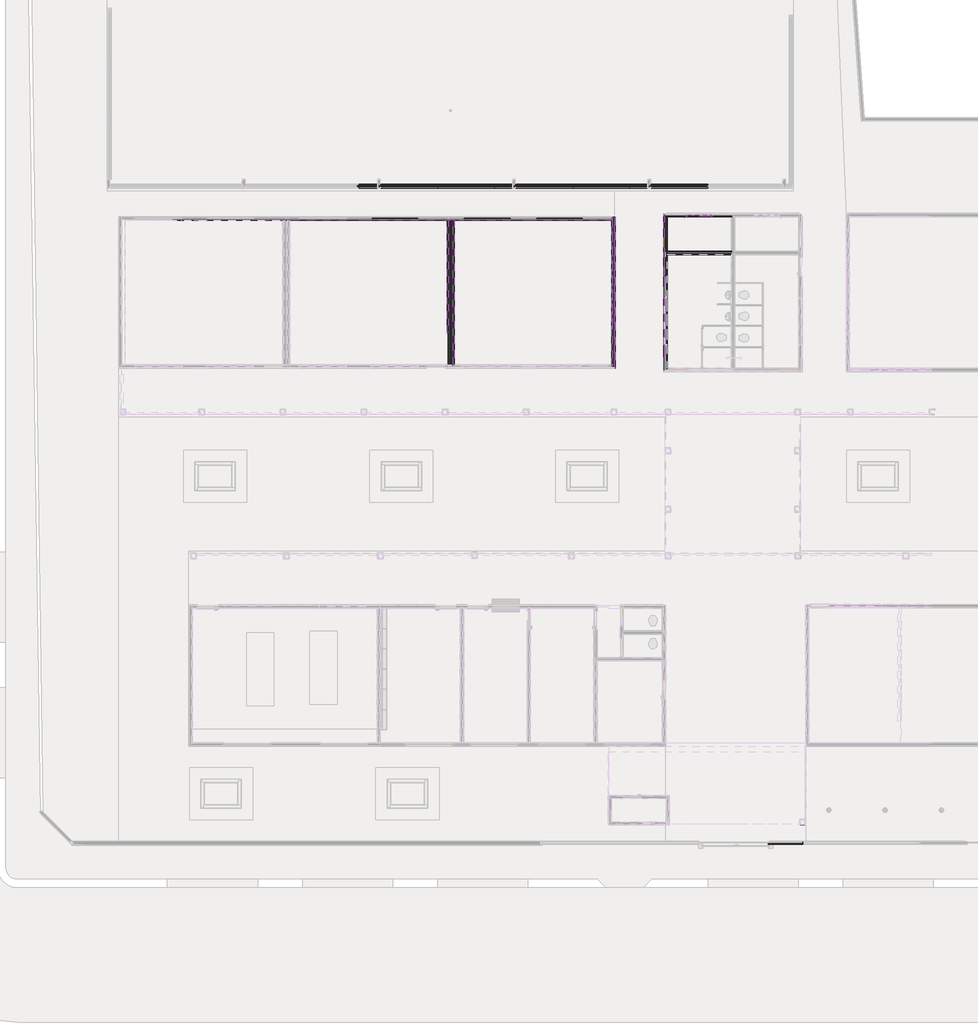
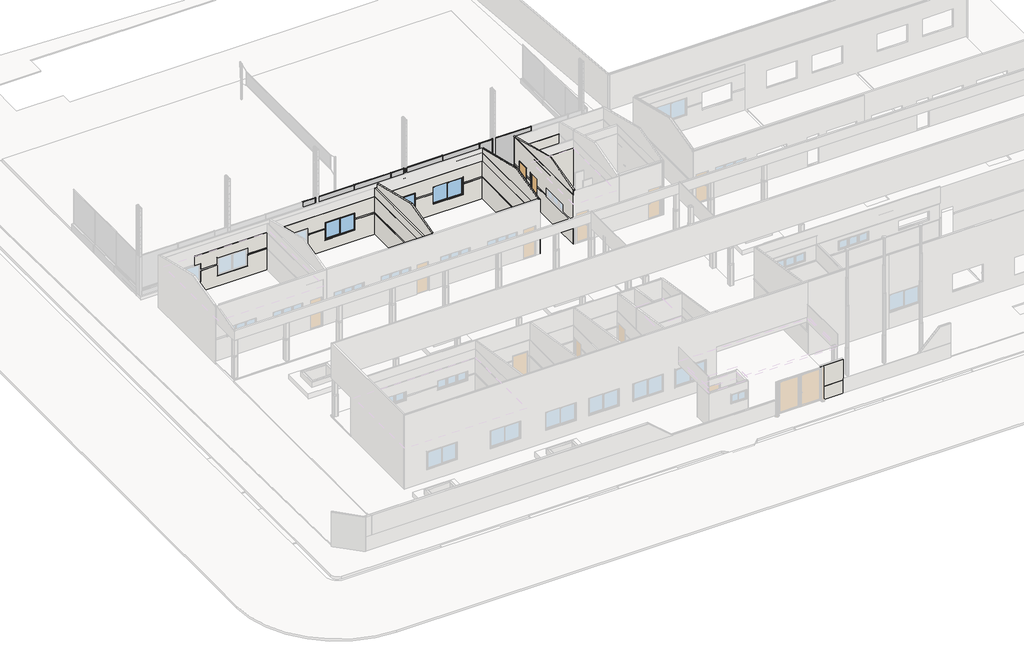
# One storey, part 10 of 28: 39 walls, 8 plates, 4 doors, 4 windows.
"""IFC4 building model written with IfcOpenShell, lengths in millimetres."""

from ifc_helpers import new_model, si_unit, frame, origin, origin_with_axes, place, context, project, spatial, polyline, outline, extrude, faceted_brep, transform, mapped, element, save
from components import door_0fbeb080, pm71_l82cm_dcb64f62, plate_c8864c2c, plate_0e4e2798, window_1x60_2e2a47e2, window_2x1_20x1x10_9e9748dd

model = new_model("IFC4")

# Units and contexts
model_context = context("Model", 3, world=origin())
ifc_project = project(units=[si_unit("LENGTHUNIT", "METRE", prefix="MILLI")], contexts=[model_context])

# Site, building, storey
site = spatial("IfcSite", under=ifc_project)
building = spatial("IfcBuilding", under=site)
storey = spatial("IfcBuildingStorey", under=building, Name="Térreo", Elevation=0.0)

# Doors
placement = place(None, origin())
door_shape = door_0fbeb080(model_context)
element("IfcDoor", 1, ObjectType="FDE_RP02_Reforço : FDE_RP02_Reforço", at=placement, inside=storey, context=model_context, shape_type="MappedRepresentation", body=[
    mapped(door_shape, transform((-34005.0, 27327.0, 1265.0), x_axis=(0.0, -1.0, 0.0), y_axis=(1.0, 0.0, 0.0), z_axis=(0.0, 0.0, 1.0))),
])
element("IfcDoor", 2, ObjectType="FDE_RP02_Reforço : FDE_RP02_Reforço", at=placement, inside=storey, context=model_context, shape_type="MappedRepresentation", body=[
    mapped(door_shape, transform((-33945.0, 25324.0, 1265.0), x_axis=(0.0, 1.0, 0.0), y_axis=(-1.0, 0.0, 0.0), z_axis=(0.0, 0.0, 1.0))),
])
pm71_l82cm_shape = pm71_l82cm_dcb64f62(model_context)
element("IfcDoor", 3, ObjectType="FDE_PM70_PM71_PM72_PortadeMadeiraSarrafeada_BatenteMetálico : PM71_L82cm", at=placement, inside=storey, context=model_context, shape_type="MappedRepresentation", body=[
    mapped(pm71_l82cm_shape, transform((-33975.0, 26972.0, 215.0), x_axis=(0.0, -1.0, 0.0), y_axis=(1.0, 0.0, 0.0), z_axis=(0.0, 0.0, 1.0))),
])
element("IfcDoor", 4, ObjectType="FDE_PM70_PM71_PM72_PortadeMadeiraSarrafeada_BatenteMetálico : PM71_L82cm", at=placement, inside=storey, context=model_context, shape_type="MappedRepresentation", body=[
    mapped(pm71_l82cm_shape, transform((-33975.0, 25679.0, 215.0), x_axis=(0.0, 1.0, 0.0), y_axis=(-1.0, 0.0, 0.0), z_axis=(0.0, 0.0, 1.0))),
])

# Plates
plate_shape = plate_c8864c2c(model_context)
element("IfcPlate", 5, ObjectType="FDE_FQ01_FechamentoParaQuadradeEsportes : FQ01_LateraisSapata", at=placement, inside=storey, context=model_context, shape_type="MappedRepresentation", body=[
    mapped(plate_shape, transform((-45414.9999998, 29253.7010511, -350.0), x_axis=(1.0, 0.0, 0.0), y_axis=(0.0, 1.0, 0.0), z_axis=(0.0, 0.0, 1.0))),
])
element("IfcPlate", 6, ObjectType="FDE_FQ01_FechamentoParaQuadradeEsportes : FQ01_LateraisSapata", at=placement, inside=storey, context=model_context, shape_type="MappedRepresentation", body=[
    mapped(plate_shape, transform((-42914.9999997, 29253.7010511, -350.0), x_axis=(1.0, 0.0, 0.0), y_axis=(0.0, 1.0, 0.0), z_axis=(0.0, 0.0, 1.0))),
])
element("IfcPlate", 7, ObjectType="FDE_FQ01_FechamentoParaQuadradeEsportes : FQ01_LateraisSapata", at=placement, inside=storey, context=model_context, shape_type="MappedRepresentation", body=[
    mapped(plate_shape, transform((-39414.9999998, 29253.7010511, -350.0), x_axis=(1.0, 0.0, 0.0), y_axis=(0.0, 1.0, 0.0), z_axis=(0.0, 0.0, 1.0))),
])
element("IfcPlate", 8, ObjectType="FDE_FQ01_FechamentoParaQuadradeEsportes : FQ01_LateraisSapata", at=placement, inside=storey, context=model_context, shape_type="MappedRepresentation", body=[
    mapped(plate_shape, transform((-36914.9999997, 29253.7010511, -350.0), x_axis=(1.0, 0.0, 0.0), y_axis=(0.0, 1.0, 0.0), z_axis=(0.0, 0.0, 1.0))),
])
element("IfcPlate", 9, ObjectType="FDE_FQ01_FechamentoParaQuadradeEsportes : FQ01_LateraisSapata", at=placement, inside=storey, context=model_context, shape_type="MappedRepresentation", body=[
    mapped(plate_shape, transform((-33414.9999998, 29253.7010511, -350.0), x_axis=(1.0, 0.0, 0.0), y_axis=(0.0, 1.0, 0.0), z_axis=(0.0, 0.0, 1.0))),
])
plate_2_shape = plate_0e4e2798(model_context)
element("IfcPlate", 10, ObjectType="FDE_FQ01_FechamentoParaQuadradeEsportes : FQ01_LateraisSapata", at=placement, inside=storey, context=model_context, shape_type="MappedRepresentation", body=[
    mapped(plate_2_shape, transform((-47224.9999998, 29253.7010511, -350.0), x_axis=(1.0, 0.0, 0.0), y_axis=(0.0, 1.0, 0.0), z_axis=(0.0, 0.0, 1.0))),
])
element("IfcPlate", 11, ObjectType="FDE_FQ01_FechamentoParaQuadradeEsportes : FQ01_LateraisSapata", at=placement, inside=storey, context=model_context, shape_type="MappedRepresentation", body=[
    mapped(plate_2_shape, transform((-41224.9999998, 29253.7010511, -350.0), x_axis=(1.0, 0.0, 0.0), y_axis=(0.0, 1.0, 0.0), z_axis=(0.0, 0.0, 1.0))),
])
element("IfcPlate", 12, ObjectType="FDE_FQ01_FechamentoParaQuadradeEsportes : FQ01_LateraisSapata", at=placement, inside=storey, context=model_context, shape_type="MappedRepresentation", body=[
    mapped(plate_2_shape, transform((-35224.9999998, 29253.7010511, -350.0), x_axis=(1.0, 0.0, 0.0), y_axis=(0.0, 1.0, 0.0), z_axis=(0.0, 0.0, 1.0))),
])

# Walls
element("IfcWall", 13, ObjectType="FDE_S712_AlvenariadeTijoloCerâmico/Baiano_Alvenaria_9cm - Existente", at=placement, inside=storey, context=model_context, shape_type="Brep", body=[
    faceted_brep([(-43620.0, 27870.0, 0.0), (-43620.0, 27780.0, 0.0), (-43620.0, 21300.0, 0.0), (-43620.0, 21210.0, 0.0), (-43620.0, 21210.0, 3500.0), (-43620.0, 21300.0, 3500.0), (-43620.0, 27780.0, 3500.0), (-43620.0, 27870.0, 3500.0), (-43530.0, 27870.0, 0.0), (-43530.0, 27870.0, 3500.0), (-43530.0, 27780.0, 3500.0), (-43530.0, 21300.0, 3500.0), (-43530.0, 21210.0, 3500.0), (-43530.0, 21210.0, 0.0), (-43530.0, 21300.0, 0.0), (-43530.0, 27780.0, 0.0)], [[[0, 1, 2, 3, 4, 5, 6, 7]], [[8, 9, 10, 11, 12, 13, 14, 15]], [[3, 2, 1, 0, 8, 15, 14, 13]], [[7, 6, 5, 4, 12, 11, 10, 9]], [[4, 3, 13, 12]], [[0, 7, 9, 8]]]),
])
element("IfcWall", 14, ObjectType="FDE_S712_AlvenariadeTijoloCerâmico/Baiano_Alvenaria_9cm - Existente", at=placement, inside=storey, context=model_context, shape_type="Brep", body=[
    faceted_brep([(-36320.0, 27870.0, 0.0), (-36320.0, 27780.0, 0.0), (-36320.0, 21300.0, 0.0), (-36320.0, 21210.0, 0.0), (-36320.0, 21210.0, 3500.0), (-36320.0, 21300.0, 3500.0), (-36320.0, 27780.0, 3500.0), (-36320.0, 27870.0, 3500.0), (-36230.0, 27870.0, 0.0), (-36230.0, 27870.0, 3500.0), (-36230.0, 21210.0, 3500.0), (-36230.0, 21210.0, 0.0)], [[[0, 1, 2, 3, 4, 5, 6, 7]], [[8, 9, 10, 11]], [[3, 2, 1, 0, 8, 11]], [[7, 6, 5, 4, 10, 9]], [[0, 7, 9, 8]], [[3, 11, 10, 4]]]),
])
element("IfcWall", 15, ObjectType="FDE_S712_AlvenariadeTijoloCerâmico/Baiano_Alvenaria_9cm - Existente", at=placement, inside=storey, context=model_context, shape_type="Brep", body=[
    faceted_brep([(-43530.0, 27780.0, 0.0), (-36320.0, 27780.0, 0.0), (-36320.0, 27780.0, 3500.0), (-43530.0, 27780.0, 3500.0), (-39715.0, 27780.0, 965.0), (-39715.0, 27780.0, 1824.9435125), (-39715.0, 27780.0, 2235.0), (-37645.0, 27780.0, 2235.0), (-37645.0, 27780.0, 1824.9435125), (-37645.0, 27780.0, 965.0), (-42915.0, 27780.0, 965.0), (-42915.0, 27780.0, 1824.9435125), (-42915.0, 27780.0, 2235.0), (-40845.0, 27780.0, 2235.0), (-40845.0, 27780.0, 1824.9435125), (-40845.0, 27780.0, 965.0), (-36320.0, 27870.0, 0.0), (-43530.0, 27870.0, 0.0), (-43530.0, 27870.0, 3500.0), (-36320.0, 27870.0, 3500.0), (-39715.0, 27870.0, 2235.0), (-39715.0, 27870.0, 965.0), (-37645.0, 27870.0, 965.0), (-37645.0, 27870.0, 2235.0), (-42915.0, 27870.0, 2235.0), (-42915.0, 27870.0, 965.0), (-40845.0, 27870.0, 965.0), (-40845.0, 27870.0, 2235.0)], [[[0, 1, 2, 3], [4, 5, 6, 7, 8, 9], [10, 11, 12, 13, 14, 15]], [[16, 17, 18, 19], [20, 21, 22, 23], [24, 25, 26, 27]], [[1, 0, 17, 16]], [[3, 2, 19, 18]], [[2, 1, 16, 19]], [[3, 18, 17, 0]], [[4, 21, 20, 6, 5]], [[6, 20, 23, 7]], [[7, 23, 22, 9, 8]], [[21, 4, 9, 22]], [[10, 25, 24, 12, 11]], [[12, 24, 27, 13]], [[13, 27, 26, 15, 14]], [[25, 10, 15, 26]]]),
])
element("IfcWall", 16, ObjectType="FDE_S712_AlvenariadeTijoloCerâmico/Baiano_Alvenaria_9cm - Existente", at=placement, inside=storey, context=model_context, shape_type="Brep", body=[
    faceted_brep([(-33930.0, 21150.0, 0.0), (-33930.0, 27930.0, 0.0), (-33930.0, 27930.0, 200.0), (-33930.0, 27930.0, 2900.0), (-33930.0, 27930.0, 3729.5080277), (-33930.0, 23811.6315073, 4759.1001508), (-33930.0, 21060.0, 4071.192274), (-33930.0, 21060.0, 1731.0528047), (-33930.0, 21030.0, 1731.0528047), (-33930.0, 21030.0, 131.0), (-33930.0, 21150.0, 131.0), (-33930.0, 26555.0, 215.0), (-33930.0, 26555.0, 2327.0), (-33930.0, 27389.0, 2327.0), (-33930.0, 27389.0, 215.0), (-33930.0, 26096.0, 2327.0), (-33930.0, 26096.0, 215.0), (-33930.0, 25262.0, 215.0), (-33930.0, 25262.0, 2327.0), (-33930.0, 22215.0, 1665.0), (-33930.0, 22215.0, 2335.0), (-33930.0, 24285.0, 2335.0), (-33930.0, 24285.0, 1665.0), (-34020.0, 27930.0, 0.0), (-34020.0, 21150.0, 0.0), (-34020.0, 21150.0, 131.0), (-34020.0, 21030.0, 131.0), (-34020.0, 21030.0, 1731.0528047), (-34020.0, 21060.0, 1731.0528047), (-34020.0, 21060.0, 1824.9435125), (-34020.0, 21060.0, 3741.7030272), (-34020.0, 21060.0, 4013.8205229), (-34020.0, 21060.0, 4071.192274), (-34020.0, 23811.6315073, 4759.1001508), (-34020.0, 27930.0, 3729.5080277), (-34020.0, 27930.0, 3693.3295728), (-34020.0, 27930.0, 1824.9435125), (-34020.0, 27930.0, 1731.0528047), (-34020.0, 26096.0, 215.0), (-34020.0, 26096.0, 1731.0528047), (-34020.0, 26096.0, 1824.9435125), (-34020.0, 26096.0, 2327.0), (-34020.0, 25262.0, 2327.0), (-34020.0, 25262.0, 1824.9435125), (-34020.0, 25262.0, 1731.0528047), (-34020.0, 25262.0, 215.0), (-34020.0, 26555.0, 2327.0), (-34020.0, 26555.0, 1824.9435125), (-34020.0, 26555.0, 1731.0528047), (-34020.0, 26555.0, 215.0), (-34020.0, 27389.0, 215.0), (-34020.0, 27389.0, 1731.0528047), (-34020.0, 27389.0, 1824.9435125), (-34020.0, 27389.0, 2327.0), (-34020.0, 22215.0, 2335.0), (-34020.0, 22215.0, 1824.9435125), (-34020.0, 22215.0, 1731.0528047), (-34020.0, 22215.0, 1665.0), (-34020.0, 24285.0, 1665.0), (-34020.0, 24285.0, 1731.0528047), (-34020.0, 24285.0, 1824.9435125), (-34020.0, 24285.0, 2335.0)], [[[0, 1, 2, 3, 4, 5, 6, 7, 8, 9, 10], [11, 12, 13, 14], [15, 16, 17, 18], [19, 20, 21, 22]], [[23, 24, 25, 26, 27, 28, 29, 30, 31, 32, 33, 34, 35, 36, 37], [38, 39, 40, 41, 42, 43, 44, 45], [46, 47, 48, 49, 50, 51, 52, 53], [54, 55, 56, 57, 58, 59, 60, 61]], [[1, 0, 24, 23]], [[11, 49, 48, 47, 46, 12]], [[12, 46, 53, 13]], [[50, 14, 13, 53, 52, 51]], [[49, 11, 14, 50]], [[38, 16, 15, 41, 40, 39]], [[41, 15, 18, 42]], [[42, 18, 17, 45, 44, 43]], [[16, 38, 45, 17]], [[32, 6, 5, 33]], [[4, 34, 33, 5]], [[19, 57, 56, 55, 54, 20]], [[20, 54, 61, 21]], [[21, 61, 60, 59, 58, 22]], [[57, 19, 22, 58]], [[26, 25, 10, 9]], [[24, 0, 10, 25]], [[1, 23, 37, 36, 35, 34, 4, 3, 2]], [[28, 27, 8, 7]], [[26, 9, 8, 27]], [[6, 32, 31, 30, 29, 28, 7]]]),
])
element("IfcWall", 17, ObjectType="FDE_S712_AlvenariadeTijoloCerâmico/Baiano_Alvenaria_9cm - Existente", at=placement, inside=storey, context=model_context, shape_type="Brep", body=[
    faceted_brep([(-36320.0, 27780.0, 0.0), (-36320.0, 27749.9999994, 0.0), (-36320.0, 21300.0, 0.0), (-36320.0, 21300.0, 1731.0528047), (-36320.0, 21300.0, 4131.192274), (-36320.0, 23811.6315073, 4759.1001508), (-36320.0, 27780.0, 3767.0080277), (-36320.0, 27780.0, 1731.0528047), (-36230.0, 27780.0, 0.0), (-36230.0, 27780.0, 3767.0080277), (-36230.0, 23811.6315073, 4759.1001508), (-36230.0, 21300.0, 4131.192274), (-36230.0, 21300.0, 0.0)], [[[0, 1, 2, 3, 4, 5, 6, 7]], [[8, 9, 10, 11, 12]], [[2, 1, 0, 8, 12]], [[0, 7, 6, 9, 8]], [[6, 5, 10, 9]], [[5, 4, 11, 10]], [[2, 12, 11, 4, 3]]]),
])
element("IfcWall", 18, ObjectType="FDE_S712_AlvenariadeTijoloCerâmico/Baiano_Alvenaria_9cm - Existente", at=placement, inside=storey, context=model_context, shape_type="Brep", body=[
    faceted_brep([(-43380.0, 21300.0, 4131.192274), (-43380.0, 21300.0, 1731.0528047), (-43380.0, 21300.0, 0.0), (-43380.0, 21330.0, 0.0), (-43380.0, 27749.9999994, 0.0), (-43380.0, 27779.9999994, 0.0), (-43380.0, 27779.9999994, 1731.0528047), (-43380.0, 27779.9999994, 1824.9435125), (-43380.0, 27779.9999994, 2900.0), (-43380.0, 27779.9999994, 3767.0080278), (-43380.0, 23811.6315073, 4759.1001508), (-43470.0, 21300.0, 0.0), (-43470.0, 21300.0, 4131.192274), (-43470.0, 23811.6315073, 4759.1001508), (-43470.0, 27779.9999994, 3767.0080278), (-43470.0, 27779.9999994, 1731.0528047), (-43470.0, 27779.9999994, 0.0), (-43470.0, 27749.9999994, 0.0)], [[[0, 1, 2, 3, 4, 5, 6, 7, 8, 9, 10]], [[11, 12, 13, 14, 15, 16, 17]], [[5, 4, 3, 2, 11, 17, 16]], [[0, 10, 13, 12]], [[10, 9, 14, 13]], [[5, 16, 15, 14, 9, 8, 7, 6]], [[0, 12, 11, 2, 1]]]),
])
element("IfcWall", 19, ObjectType="Muro Edificação", at=placement, inside=storey, context=model_context, shape_type="SweptSolid", body=[
    extrude(outline(polyline([(-27865.8320115, 32.3551074), (-29365.8320115, 32.3551074), (-29365.8320115, 182.3551074), (-27865.8320115, 182.3551074), (-27865.8320115, 32.3551074)])), origin_with_axes(), (0.0, 0.0, 1.0), 1050.0),
])
element("IfcWall", 20, ObjectType="Revestimento Cerâmico 10x10cm", at=placement, inside=storey, context=model_context, shape_type="Brep", body=[
    faceted_brep([(-29396.7045635, 32.3387091, 0.0), (-27865.8320115, 32.3387091, 0.0), (-27865.8320115, 32.3387091, 2514.4715065), (-29396.7045635, 32.3387091, 2514.4715065), (-29396.7045635, 62.3387091, 0.0), (-29396.7045635, 62.3387091, 2514.4715065), (-27865.8320115, 62.3387091, 2514.4715065), (-27865.8320115, 62.3387091, 1156.7860555), (-27865.8320115, 62.3387091, 0.0)], [[[0, 1, 2, 3]], [[4, 5, 6, 7, 8]], [[1, 0, 4, 8]], [[2, 1, 8, 7, 6]], [[3, 2, 6, 5]], [[0, 3, 5, 4]]]),
])
element("IfcWall", 21, ObjectType="Revestimento Cerâmico 10x10cm", at=placement, inside=storey, context=model_context, shape_type="Brep", body=[
    faceted_brep([(-34050.0, 27930.0, 0.0), (-34050.0, 21150.0, 0.0), (-34050.0, 21150.0, 131.0), (-34050.0, 21030.0, 131.0), (-34050.0, 21030.0, 1731.0528047), (-34050.0, 22215.0, 1731.0528047), (-34050.0, 22215.0, 1665.0), (-34050.0, 24285.0, 1665.0), (-34050.0, 24285.0, 1731.0528047), (-34050.0, 25262.0, 1731.0528047), (-34050.0, 25262.0, 215.0), (-34050.0, 26096.0, 215.0), (-34050.0, 26096.0, 1731.0528047), (-34050.0, 26555.0, 1731.0528047), (-34050.0, 26555.0, 215.0), (-34050.0, 27389.0, 215.0), (-34050.0, 27389.0, 1731.0528047), (-34050.0, 27930.0, 1731.0528047), (-34020.0, 21150.0, 0.0), (-34020.0, 27930.0, 0.0), (-34020.0, 27930.0, 1731.0528047), (-34020.0, 27389.0, 1731.0528047), (-34020.0, 27389.0, 215.0), (-34020.0, 26555.0, 215.0), (-34020.0, 26555.0, 1731.0528047), (-34020.0, 26096.0, 1731.0528047), (-34020.0, 26096.0, 215.0), (-34020.0, 25262.0, 215.0), (-34020.0, 25262.0, 1731.0528047), (-34020.0, 24285.0, 1731.0528047), (-34020.0, 24285.0, 1665.0), (-34020.0, 22215.0, 1665.0), (-34020.0, 22215.0, 1731.0528047), (-34020.0, 21060.0, 1731.0528047), (-34020.0, 21030.0, 1731.0528047), (-34020.0, 21030.0, 131.0), (-34020.0, 21150.0, 131.0)], [[[0, 1, 2, 3, 4, 5, 6, 7, 8, 9, 10, 11, 12, 13, 14, 15, 16, 17]], [[18, 19, 20, 21, 22, 23, 24, 25, 26, 27, 28, 29, 30, 31, 32, 33, 34, 35, 36]], [[1, 0, 19, 18]], [[5, 4, 34, 33, 32]], [[8, 29, 28, 9]], [[17, 16, 21, 20]], [[24, 13, 12, 25]], [[31, 6, 5, 32]], [[7, 30, 29, 8]], [[6, 31, 30, 7]], [[23, 14, 13, 24]], [[15, 22, 21, 16]], [[14, 23, 22, 15]], [[11, 26, 25, 12]], [[27, 10, 9, 28]], [[26, 11, 10, 27]], [[19, 0, 17, 20]], [[3, 2, 36, 35]], [[1, 18, 36, 2]], [[34, 4, 3, 35]]]),
])
element("IfcWall", 22, ObjectType="Faixa - Revestimento Cerâmico Verde Folha 10x10cm", at=placement, inside=storey, context=model_context, shape_type="Brep", body=[
    faceted_brep([(-34050.0, 27930.0, 1731.0528047), (-34050.0, 27389.0, 1731.0528047), (-34050.0, 27389.0, 1824.9435125), (-34050.0, 27930.0, 1824.9435125), (-34020.0, 27389.0, 1731.0528047), (-34020.0, 27930.0, 1731.0528047), (-34020.0, 27930.0, 1824.9435125), (-34020.0, 27389.0, 1824.9435125), (-34041.0, 27930.0, 1824.9435125)], [[[0, 1, 2, 3]], [[4, 5, 6, 7]], [[1, 0, 5, 4]], [[3, 2, 7, 6, 8]], [[2, 1, 4, 7]], [[0, 3, 8, 6, 5]]]),
    faceted_brep([(-34050.0, 26555.0, 1824.9435125), (-34050.0, 26555.0, 1731.0528047), (-34050.0, 26096.0, 1731.0528047), (-34050.0, 26096.0, 1824.9435125), (-34020.0, 26555.0, 1731.0528047), (-34020.0, 26555.0, 1824.9435125), (-34020.0, 26096.0, 1824.9435125), (-34020.0, 26096.0, 1731.0528047)], [[[0, 1, 2, 3]], [[4, 5, 6, 7]], [[1, 4, 7, 2]], [[5, 0, 3, 6]], [[1, 0, 5, 4]], [[3, 2, 7, 6]]]),
    faceted_brep([(-34050.0, 25262.0, 1824.9435125), (-34050.0, 25262.0, 1731.0528047), (-34050.0, 24285.0, 1731.0528047), (-34050.0, 24285.0, 1824.9435125), (-34020.0, 25262.0, 1731.0528047), (-34020.0, 25262.0, 1824.9435125), (-34020.0, 24285.0, 1824.9435125), (-34020.0, 24285.0, 1731.0528047)], [[[0, 1, 2, 3]], [[4, 5, 6, 7]], [[1, 4, 7, 2]], [[5, 0, 3, 6]], [[1, 0, 5, 4]], [[3, 2, 7, 6]]]),
])
element("IfcWall", 23, ObjectType="Pardes Externas_Pintura Acrílica Branco Neve", at=placement, inside=storey, context=model_context, shape_type="Brep", body=[
    faceted_brep([(-34041.0, 21060.0, 3741.7030272), (-34041.0, 28035.0, 3741.7030272), (-34041.0, 28035.0, 3729.5080277), (-34041.0, 28020.0, 3729.5080277), (-34041.0, 28020.0, 3693.3295728), (-34041.0, 27930.0, 3693.3295728), (-34041.0, 27930.0, 1824.9435125), (-34041.0, 27389.0, 1824.9435125), (-34041.0, 27389.0, 2327.0), (-34041.0, 26555.0, 2327.0), (-34041.0, 26555.0, 1824.9435125), (-34041.0, 26096.0, 1824.9435125), (-34041.0, 26096.0, 2327.0), (-34041.0, 25262.0, 2327.0), (-34041.0, 25262.0, 1824.9435125), (-34041.0, 24285.0, 1824.9435125), (-34041.0, 24285.0, 2335.0), (-34041.0, 22215.0, 2335.0), (-34041.0, 22215.0, 1824.9435125), (-34041.0, 21060.0, 1824.9435125), (-34020.0, 28035.0, 3741.7030272), (-34020.0, 21060.0, 3741.7030272), (-34020.0, 21060.0, 3500.0), (-34020.0, 21060.0, 1824.9435125), (-34020.0, 22215.0, 1824.9435125), (-34020.0, 22215.0, 2335.0), (-34020.0, 24285.0, 2335.0), (-34020.0, 24285.0, 1824.9435125), (-34020.0, 25262.0, 1824.9435125), (-34020.0, 25262.0, 2327.0), (-34020.0, 26096.0, 2327.0), (-34020.0, 26096.0, 1824.9435125), (-34020.0, 26555.0, 1824.9435125), (-34020.0, 26555.0, 2327.0), (-34020.0, 27389.0, 2327.0), (-34020.0, 27389.0, 1824.9435125), (-34020.0, 27930.0, 1824.9435125), (-34020.0, 27930.0, 3693.3295728), (-34020.0, 28020.0, 3693.3295728), (-34020.0, 28020.0, 3707.0080277), (-34020.0, 28020.0, 3729.5080277), (-34020.0, 28035.0, 3729.5080277)], [[[0, 1, 2, 3, 4, 5, 6, 7, 8, 9, 10, 11, 12, 13, 14, 15, 16, 17, 18, 19]], [[20, 21, 22, 23, 24, 25, 26, 27, 28, 29, 30, 31, 32, 33, 34, 35, 36, 37, 38, 39, 40, 41]], [[7, 6, 36, 35]], [[10, 32, 31, 11]], [[14, 28, 27, 15]], [[23, 19, 18, 24]], [[1, 0, 21, 20]], [[9, 33, 32, 10]], [[33, 9, 8, 34]], [[34, 8, 7, 35]], [[30, 12, 11, 31]], [[12, 30, 29, 13]], [[13, 29, 28, 14]], [[17, 25, 24, 18]], [[25, 17, 16, 26]], [[26, 16, 15, 27]], [[19, 23, 22, 21, 0]], [[38, 37, 5, 4]], [[1, 20, 41, 2]], [[2, 41, 40, 3]], [[6, 5, 37, 36]], [[4, 3, 40, 39, 38]]]),
])
element("IfcWall", 24, ObjectType="Revestimento Cerâmico 10x10cm", at=placement, inside=storey, context=model_context, shape_type="Brep", body=[
    faceted_brep([(-43380.0, 27749.9999994, 0.0), (-36350.0, 27749.9999994, 0.0), (-36320.0, 27749.9999994, 0.0), (-36320.0, 27749.9999994, 1731.0528047), (-36350.0, 27749.9999994, 1731.0528047), (-37645.0, 27749.9999994, 1731.0528047), (-37645.0, 27749.9999994, 965.0), (-39715.0, 27749.9999994, 965.0), (-39715.0, 27749.9999994, 1731.0528047), (-40845.0, 27749.9999994, 1731.0528047), (-40845.0, 27749.9999994, 965.0), (-42915.0, 27749.9999994, 965.0), (-42915.0, 27749.9999994, 1731.0528047), (-43350.0, 27749.9999994, 1731.0528047), (-43380.0, 27749.9999994, 1731.0528047), (-43380.0, 27749.9999994, 220.0), (-36320.0, 27779.9999994, 0.0), (-43380.0, 27779.9999994, 0.0), (-43380.0, 27779.9999994, 1731.0528047), (-43350.0, 27779.9999994, 1731.0528047), (-42915.0, 27779.9999994, 1731.0528047), (-42915.0, 27779.9999994, 965.0), (-40845.0, 27779.9999994, 965.0), (-40845.0, 27779.9999994, 1731.0528047), (-39715.0, 27779.9999994, 1731.0528047), (-39715.0, 27779.9999994, 965.0), (-37645.0, 27779.9999994, 965.0), (-37645.0, 27779.9999994, 1731.0528047), (-36320.0, 27779.9999994, 1731.0528047)], [[[0, 1, 2, 3, 4, 5, 6, 7, 8, 9, 10, 11, 12, 13, 14, 15]], [[16, 17, 18, 19, 20, 21, 22, 23, 24, 25, 26, 27, 28]], [[2, 1, 0, 17, 16]], [[3, 28, 27, 5, 4]], [[8, 24, 23, 9]], [[18, 14, 13, 12, 20, 19]], [[0, 15, 14, 18, 17]], [[2, 16, 28, 3]], [[7, 25, 24, 8]], [[26, 6, 5, 27]], [[25, 7, 6, 26]], [[11, 21, 20, 12]], [[22, 10, 9, 23]], [[21, 11, 10, 22]]]),
])
element("IfcWall", 25, ObjectType="Revestimento Cerâmico 10x10cm", at=placement, inside=storey, context=model_context, shape_type="Brep", body=[
    faceted_brep([(-36350.0, 27749.9999994, 1731.0528047), (-36350.0, 27749.9999994, 0.0), (-36350.0, 21330.0, 0.0), (-36350.0, 21300.0, 0.0), (-36350.0, 21300.0, 1731.0528047), (-36350.0, 21330.0, 1731.0528047), (-36320.0, 27749.9999994, 0.0), (-36320.0, 27749.9999994, 220.0), (-36320.0, 27749.9999994, 1731.0528047), (-36320.0, 21300.0, 1731.0528047), (-36320.0, 21300.0, 0.0)], [[[0, 1, 2, 3, 4, 5]], [[6, 7, 8, 9, 10]], [[3, 2, 1, 6, 10]], [[0, 5, 4, 9, 8]], [[4, 3, 10, 9]], [[0, 8, 7, 6, 1]]]),
])
element("IfcWall", 26, ObjectType="Faixa - Revestimento Cerâmico Verde Folha 10x10cm", at=placement, inside=storey, context=model_context, shape_type="SweptSolid", body=[
    extrude(outline(polyline([(-40845.0, 27749.9999994), (-40845.0, 27779.9999994), (-39715.0, 27779.9999994), (-39715.0, 27749.9999994), (-40845.0, 27749.9999994)])), frame((0.0, 0.0, 1731.0528047), z_axis=(0.0, 0.0, 1.0), x_axis=(1.0, 0.0, 0.0)), (0.0, 0.0, 1.0), 93.8907079),
    extrude(outline(polyline([(-36350.0, 27779.9999994), (-36350.0, 27749.9999994), (-37645.0, 27749.9999994), (-37645.0, 27779.9999994), (-36350.0, 27779.9999994)])), frame((0.0, 0.0, 1731.0528047), z_axis=(0.0, 0.0, 1.0), x_axis=(1.0, 0.0, 0.0)), (0.0, 0.0, 1.0), 93.8907079),
    extrude(outline(polyline([(-43350.0, 27749.9999994), (-43350.0, 27779.9999994), (-42915.0, 27779.9999994), (-42915.0, 27749.9999994), (-43350.0, 27749.9999994)])), frame((0.0, 0.0, 1731.0528047), z_axis=(0.0, 0.0, 1.0), x_axis=(1.0, 0.0, 0.0)), (0.0, 0.0, 1.0), 93.8907079),
])
element("IfcWall", 27, ObjectType="Faixa - Revestimento Cerâmico Verde Folha 10x10cm", at=placement, inside=storey, context=model_context, shape_type="Brep", body=[
    faceted_brep([(-36350.0, 27779.9999994, 1731.0528047), (-36350.0, 27749.9999994, 1731.0528047), (-36350.0, 21300.0, 1731.0528047), (-36350.0, 21270.0, 1731.0528047), (-36350.0, 21270.0, 1824.9435125), (-36350.0, 21300.0, 1824.9435125), (-36350.0, 27749.9999994, 1824.9435125), (-36350.0, 27779.9999994, 1824.9435125), (-36320.0, 27779.9999994, 1731.0528047), (-36320.0, 27779.9999994, 1824.9435125), (-36320.0, 21270.0, 1824.9435125), (-36320.0, 21270.0, 1731.0528047), (-36320.0, 21300.0, 1731.0528047), (-36320.0, 27749.9999994, 1731.0528047)], [[[0, 1, 2, 3, 4, 5, 6, 7]], [[8, 9, 10, 11, 12, 13]], [[3, 2, 1, 0, 8, 13, 12, 11]], [[7, 6, 5, 4, 10, 9]], [[4, 3, 11, 10]], [[0, 7, 9, 8]]]),
])
element("IfcWall", 28, ObjectType="Revestimento Cerâmico 10x10cm", at=placement, inside=storey, context=model_context, shape_type="SweptSolid", body=[
    extrude(outline(polyline([(-43350.0, 27749.9999994), (-43350.0, 21330.0), (-43380.0, 21330.0), (-43380.0, 27749.9999994), (-43350.0, 27749.9999994)])), frame((0.0, 0.0, 220.0), z_axis=(0.0, 0.0, 1.0), x_axis=(1.0, 0.0, 0.0)), (0.0, 0.0, 1.0), 1511.0528047),
])
element("IfcWall", 29, ObjectType="Faixa - Revestimento Cerâmico Verde Folha 10x10cm", at=placement, inside=storey, context=model_context, shape_type="Brep", body=[
    faceted_brep([(-43350.0, 21315.0, 1731.0528047), (-43350.0, 27749.9999994, 1731.0528047), (-43350.0, 27779.9999994, 1731.0528047), (-43350.0, 27779.9999994, 1824.9435125), (-43350.0, 27749.9999994, 1824.9435125), (-43350.0, 21315.0, 1824.9435125), (-43380.0, 21315.0, 1731.0528047), (-43380.0, 21315.0, 1824.9435125), (-43380.0, 27779.9999994, 1824.9435125), (-43380.0, 27779.9999994, 1731.0528047)], [[[0, 1, 2, 3, 4, 5]], [[6, 7, 8, 9]], [[2, 1, 0, 6, 9]], [[5, 4, 3, 8, 7]], [[0, 5, 7, 6]], [[3, 2, 9, 8]]]),
])
element("IfcWall", 30, ObjectType="Pardes Internas_Pintura Acrílica Branco Neve 2", at=placement, inside=storey, context=model_context, shape_type="SweptSolid", body=[
    extrude(outline(polyline([(2900.0, -36351.0), (2900.0, -43380.0), (1824.9435125, -43380.0), (1824.9435125, -42915.0), (2235.0, -42915.0), (2235.0, -40845.0), (1824.9435125, -40845.0), (1824.9435125, -39715.0), (2235.0, -39715.0), (2235.0, -37645.0), (1824.9435125, -37645.0), (1824.9435125, -36351.0), (2900.0, -36351.0)])), frame((0.0, 27748.9999994, 0.0), z_axis=(0.0, 1.0, 0.0), x_axis=(0.0, 0.0, 1.0)), (0.0, 0.0, 1.0), 31.0),
])
element("IfcWall", 31, ObjectType="Pardes Internas_Pintura Acrílica Branco Neve 2", at=placement, inside=storey, context=model_context, shape_type="SweptSolid", body=[
    extrude(outline(polyline([(-43349.0, 27758.9999994), (-43349.0, 21331.0), (-43380.0, 21331.0), (-43380.0, 27758.9999994), (-43349.0, 27758.9999994)])), frame((0.0, 0.0, 1824.9435125), z_axis=(0.0, 0.0, 1.0), x_axis=(1.0, 0.0, 0.0)), (0.0, 0.0, 1.0), 1075.0564875),
])
element("IfcWall", 32, ObjectType="Revestimento Cerâmico 10x10cm", at=placement, inside=storey, context=model_context, shape_type="Brep", body=[
    faceted_brep([(-50680.0, 27749.9999994, 0.0), (-43470.0, 27749.9999994, 0.0), (-43470.0, 27749.9999994, 1731.0528047), (-44945.0, 27749.9999994, 1731.0528047), (-44945.0, 27749.9999994, 965.0), (-47015.0, 27749.9999994, 965.0), (-47015.0, 27749.9999994, 1731.0528047), (-48145.0, 27749.9999994, 1731.0528047), (-48145.0, 27749.9999994, 965.0), (-50215.0, 27749.9999994, 965.0), (-50215.0, 27749.9999994, 1731.0528047), (-50650.0, 27749.9999994, 1731.0528047), (-50680.0, 27749.9999994, 1731.0528047), (-50680.0, 27749.9999994, 220.0), (-43470.0, 27779.9999994, 0.0), (-50680.0, 27779.9999994, 0.0), (-50680.0, 27779.9999994, 1731.0528047), (-50215.0, 27779.9999994, 1731.0528047), (-50215.0, 27779.9999994, 965.0), (-48145.0, 27779.9999994, 965.0), (-48145.0, 27779.9999994, 1731.0528047), (-47015.0, 27779.9999994, 1731.0528047), (-47015.0, 27779.9999994, 965.0), (-44945.0, 27779.9999994, 965.0), (-44945.0, 27779.9999994, 1731.0528047), (-43470.0, 27779.9999994, 1731.0528047)], [[[0, 1, 2, 3, 4, 5, 6, 7, 8, 9, 10, 11, 12, 13]], [[14, 15, 16, 17, 18, 19, 20, 21, 22, 23, 24, 25]], [[1, 0, 15, 14]], [[2, 25, 24, 3]], [[6, 21, 20, 7]], [[16, 12, 11, 10, 17]], [[0, 13, 12, 16, 15]], [[1, 14, 25, 2]], [[5, 22, 21, 6]], [[23, 4, 3, 24]], [[22, 5, 4, 23]], [[9, 18, 17, 10]], [[19, 8, 7, 20]], [[18, 9, 8, 19]]]),
])
element("IfcWall", 33, ObjectType="Pardes Internas_Pintura Acrílica Branco Neve 2", at=placement, inside=storey, context=model_context, shape_type="Brep", body=[
    faceted_brep([(-43484.5, 27748.9999994, 1824.9435125), (-43484.5, 27748.9999994, 2900.0), (-50649.0, 27748.9999994, 2900.0), (-50680.0, 27748.9999994, 2900.0), (-50680.0, 27748.9999994, 1824.9435125), (-50649.0, 27748.9999994, 1824.9435125), (-50215.0, 27748.9999994, 1824.9435125), (-50215.0, 27748.9999994, 2235.0), (-48145.0, 27748.9999994, 2235.0), (-48145.0, 27748.9999994, 1824.9435125), (-47015.0, 27748.9999994, 1824.9435125), (-47015.0, 27748.9999994, 2235.0), (-44945.0, 27748.9999994, 2235.0), (-44945.0, 27748.9999994, 1824.9435125), (-43484.5, 27779.9999994, 2900.0), (-43484.5, 27779.9999994, 1824.9435125), (-44945.0, 27779.9999994, 1824.9435125), (-44945.0, 27779.9999994, 2235.0), (-47015.0, 27779.9999994, 2235.0), (-47015.0, 27779.9999994, 1824.9435125), (-48145.0, 27779.9999994, 1824.9435125), (-48145.0, 27779.9999994, 2235.0), (-50215.0, 27779.9999994, 2235.0), (-50215.0, 27779.9999994, 1824.9435125), (-50680.0, 27779.9999994, 1824.9435125), (-50680.0, 27779.9999994, 2900.0), (-50680.0, 27749.9999994, 1824.9435125)], [[[0, 1, 2, 3, 4, 5, 6, 7, 8, 9, 10, 11, 12, 13]], [[14, 15, 16, 17, 18, 19, 20, 21, 22, 23, 24, 25]], [[15, 0, 13, 16]], [[9, 20, 19, 10]], [[4, 26, 24, 23, 6, 5]], [[1, 0, 15, 14]], [[3, 2, 1, 14, 25]], [[22, 7, 6, 23]], [[7, 22, 21, 8]], [[8, 21, 20, 9]], [[18, 11, 10, 19]], [[11, 18, 17, 12]], [[12, 17, 16, 13]], [[24, 26, 4, 3, 25]]]),
])
element("IfcWall", 34, ObjectType="Revestimento Cerâmico 10x10cm", at=placement, inside=storey, context=model_context, shape_type="SweptSolid", body=[
    extrude(outline(polyline([(-27779.7378789, 898.5326612), (-27979.7378789, 898.5326612), (-27979.7378789, 928.5326612), (-27779.7378789, 928.5326612), (-27779.7378789, 898.5326612)])), frame((0.0, 0.0, 194.0), z_axis=(0.0, 0.0, 1.0), x_axis=(1.0, 0.0, 0.0)), (0.0, 0.0, 1.0), 1500.0),
])
element("IfcWall", 35, ObjectType="Faixa - Revestimento Cerâmico Verde Folha 10x10cm", at=placement, inside=storey, context=model_context, shape_type="Brep", body=[
    faceted_brep([(-36230.0, 27870.0, 1731.0528047), (-36230.0, 21210.0, 1731.0528047), (-36230.0, 21210.0, 1824.9435125), (-36230.0, 27870.0, 1824.9435125), (-36200.0, 27870.0, 1731.0528047), (-36200.0, 27870.0, 1824.9435125), (-36200.0, 21210.0, 1824.9435125), (-36200.0, 21210.0, 1731.0528047), (-36209.0, 21210.0, 1824.9435125)], [[[0, 1, 2, 3]], [[4, 5, 6, 7]], [[1, 0, 4, 7]], [[3, 2, 8, 6, 5]], [[0, 3, 5, 4]], [[2, 1, 7, 6, 8]]]),
])
element("IfcWall", 36, ObjectType="Pardes Externas_Pintura Acrílica Branco Neve", at=placement, inside=storey, context=model_context, shape_type="SweptSolid", body=[
    extrude(outline(polyline([(27870.0, 1824.9435125), (21210.0, 1824.9435125), (21210.0, 4108.692274), (23811.6315073, 4759.1001508), (27870.0, 3744.5080277), (27870.0, 1824.9435125)])), frame((-36230.0, 0.0, 0.0), z_axis=(1.0, 0.0, 0.0), x_axis=(0.0, 1.0, 0.0)), (0.0, 0.0, 1.0), 21.0),
])
element("IfcWall", 37, ObjectType="Revestimento Cerâmico 10x10cm", at=placement, inside=storey, context=model_context, shape_type="Brep", body=[
    faceted_brep([(-36230.0, 27870.0, 220.0), (-36230.0, 21180.0, 220.0), (-36230.0, 21180.0, 1731.0528047), (-36230.0, 21210.0, 1731.0528047), (-36230.0, 27870.0, 1731.0528047), (-36200.0, 27870.0, 220.0), (-36200.0, 27870.0, 1731.0528047), (-36200.0, 21180.0, 1731.0528047), (-36200.0, 21180.0, 220.0)], [[[0, 1, 2, 3, 4]], [[5, 6, 7, 8]], [[1, 0, 5, 8]], [[4, 3, 2, 7, 6]], [[0, 4, 6, 5]], [[2, 1, 8, 7]]]),
])
element("IfcWall", 38, ObjectType="Faixa - Revestimento Cerâmico Verde Folha 10x10cm", at=placement, inside=storey, context=model_context, shape_type="SweptSolid", body=[
    extrude(outline(polyline([(-43485.0, 27779.9999994), (-43485.0, 27749.9999994), (-44945.0, 27749.9999994), (-44945.0, 27779.9999994), (-43485.0, 27779.9999994)])), frame((0.0, 0.0, 1731.0528047), z_axis=(0.0, 0.0, 1.0), x_axis=(1.0, 0.0, 0.0)), (0.0, 0.0, 1.0), 93.8907079),
    extrude(outline(polyline([(-48145.0, 27749.9999994), (-48145.0, 27779.9999994), (-47015.0, 27779.9999994), (-47015.0, 27749.9999994), (-48145.0, 27749.9999994)])), frame((0.0, 0.0, 1731.0528047), z_axis=(0.0, 0.0, 1.0), x_axis=(1.0, 0.0, 0.0)), (0.0, 0.0, 1.0), 93.8907079),
])
element("IfcWall", 39, ObjectType="Faixa - Revestimento Cerâmico Verde Folha 10x10cm", at=placement, inside=storey, context=model_context, shape_type="SweptSolid", body=[
    extrude(outline(polyline([(-43620.0, 27779.9999994), (-43620.0, 22752.8035636), (-43650.0, 22752.8035636), (-43650.0, 27779.9999994), (-43620.0, 27779.9999994)])), frame((0.0, 0.0, 1731.0528047), z_axis=(0.0, 0.0, 1.0), x_axis=(1.0, 0.0, 0.0)), (0.0, 0.0, 1.0), 93.8907079),
])
element("IfcWall", 40, ObjectType="Pardes Internas_Pintura Acrílica Branco Neve 2", at=placement, inside=storey, context=model_context, shape_type="Brep", body=[
    faceted_brep([(-36320.0, 22752.8035636, 1824.9435125), (-36320.0, 27869.9999994, 1824.9435125), (-36320.0, 27869.9999994, 2900.0), (-36320.0, 22752.8035636, 2900.0), (-36351.0, 22752.8035636, 1824.9435125), (-36351.0, 22752.8035636, 2900.0), (-36351.0, 27748.9999994, 2900.0), (-36351.0, 27758.9999994, 2900.0), (-36351.0, 27779.9999994, 2900.0), (-36351.0, 27869.9999994, 2900.0), (-36351.0, 27869.9999994, 1824.9435125), (-36351.0, 27779.9999994, 1824.9435125), (-36351.0, 27758.9999994, 1824.9435125), (-36351.0, 27748.9999994, 1824.9435125)], [[[0, 1, 2, 3]], [[4, 5, 6, 7, 8, 9, 10, 11, 12, 13]], [[1, 0, 4, 13, 12, 11, 10]], [[3, 2, 9, 8, 7, 6, 5]], [[0, 3, 5, 4]], [[2, 1, 10, 9]]]),
])
element("IfcWall", 41, ObjectType="Pardes Internas_Pintura Acrílica Branco Neve 2", at=placement, inside=storey, context=model_context, shape_type="SweptSolid", body=[
    extrude(outline(polyline([(-43620.0, 27779.9999994), (-43620.0, 22752.8035636), (-43651.0, 22752.8035636), (-43651.0, 27779.9999994), (-43620.0, 27779.9999994)])), frame((0.0, 0.0, 1824.9435125), z_axis=(0.0, 0.0, 1.0), x_axis=(1.0, 0.0, 0.0)), (0.0, 0.0, 1.0), 1075.0564875),
])
element("IfcWall", 42, ObjectType="Revestimento Cerâmico 10x10cm", at=placement, inside=storey, context=model_context, shape_type="SweptSolid", body=[
    extrude(outline(polyline([(-43620.0, 27779.9999994), (-43620.0, 22752.8035636), (-43650.0, 22752.8035636), (-43650.0, 27779.9999994), (-43620.0, 27779.9999994)])), frame((0.0, 0.0, 220.0), z_axis=(0.0, 0.0, 1.0), x_axis=(1.0, 0.0, 0.0)), (0.0, 0.0, 1.0), 1511.0528047),
])
element("IfcWall", 43, ObjectType="Revestimento Cerâmico 10x10cm", at=placement, inside=storey, context=model_context, shape_type="Brep", body=[
    faceted_brep([(-33930.0, 27930.0, 220.0), (-33930.0, 21150.0, 220.0), (-33930.0, 21150.0, 2900.0), (-33930.0, 27930.0, 2900.0), (-33900.0, 27930.0, 220.0), (-33900.0, 27930.0, 2900.0), (-33900.0, 21180.0, 2900.0), (-33900.0, 21150.0, 2900.0), (-33900.0, 21150.0, 220.0)], [[[0, 1, 2, 3]], [[4, 5, 6, 7, 8]], [[1, 0, 4, 8]], [[3, 2, 7, 6, 5]], [[0, 3, 5, 4]], [[2, 1, 8, 7]]]),
])
element("IfcWall", 44, ObjectType="Revestimento Cerâmico 10x10cm", at=placement, inside=storey, context=model_context, shape_type="Brep", body=[
    faceted_brep([(-33930.0, 26345.0, 200.0), (-31020.0, 26345.0, 200.0), (-31020.0, 26345.0, 2900.0), (-33930.0, 26345.0, 2900.0), (-33930.0, 26375.0, 200.0), (-33930.0, 26375.0, 2900.0), (-31050.0, 26375.0, 2900.0), (-31020.0, 26375.0, 2900.0), (-31020.0, 26375.0, 200.0), (-31050.0, 26375.0, 200.0)], [[[0, 1, 2, 3]], [[4, 5, 6, 7, 8, 9]], [[1, 0, 4, 9, 8]], [[3, 2, 7, 6, 5]], [[0, 3, 5, 4]], [[2, 1, 8, 7]]]),
])
element("IfcWall", 45, ObjectType="Revestimento Cerâmico 10x10cm", at=placement, inside=storey, context=model_context, shape_type="SweptSolid", body=[
    extrude(outline(polyline([(-33930.0, 26255.0), (-31050.0, 26255.0), (-31050.0, 26225.0), (-33930.0, 26225.0), (-33930.0, 26255.0)])), frame((0.0, 0.0, 200.0), z_axis=(0.0, 0.0, 1.0), x_axis=(1.0, 0.0, 0.0)), (0.0, 0.0, 1.0), 2700.0),
])
element("IfcWall", 46, ObjectType="Revestimento Cerâmico 10x10cm", at=placement, inside=storey, context=model_context, shape_type="SweptSolid", body=[
    extrude(outline(polyline([(-33930.0, 27930.0), (-31020.0, 27930.0), (-31020.0, 27900.0), (-33930.0, 27900.0), (-33930.0, 27930.0)])), frame((0.0, 0.0, 200.0), z_axis=(0.0, 0.0, 1.0), x_axis=(1.0, 0.0, 0.0)), (0.0, 0.0, 1.0), 2700.0),
])
element("IfcWall", 47, ObjectType="Revestimento Cerâmico 10x10cm", at=placement, inside=storey, context=model_context, shape_type="Brep", body=[
    faceted_brep([(-36320.0, 27779.9999994, 220.0), (-55835.5398007, 27779.9999994, 220.0), (-55835.5398007, 27779.9999994, 965.0), (-55445.0, 27779.9999994, 965.0), (-55445.0, 27779.9999994, 1731.0528047), (-54315.0, 27779.9999994, 1731.0528047), (-54315.0, 27779.9999994, 965.0), (-52245.0, 27779.9999994, 965.0), (-52245.0, 27779.9999994, 1731.0528047), (-50215.0, 27779.9999994, 1731.0528047), (-50215.0, 27779.9999994, 965.0), (-48145.0, 27779.9999994, 965.0), (-48145.0, 27779.9999994, 1731.0528047), (-47015.0, 27779.9999994, 1731.0528047), (-47015.0, 27779.9999994, 965.0), (-44945.0, 27779.9999994, 965.0), (-44945.0, 27779.9999994, 1731.0528047), (-42915.0, 27779.9999994, 1731.0528047), (-42915.0, 27779.9999994, 965.0), (-40845.0, 27779.9999994, 965.0), (-40845.0, 27779.9999994, 1731.0528047), (-39715.0, 27779.9999994, 1731.0528047), (-39715.0, 27779.9999994, 965.0), (-37645.0, 27779.9999994, 965.0), (-37645.0, 27779.9999994, 1731.0528047), (-36320.0, 27779.9999994, 1731.0528047), (-55835.5398007, 27749.9999994, 220.0), (-36320.0, 27749.9999994, 220.0), (-36320.0, 27749.9999994, 1731.0528047), (-36350.0, 27749.9999994, 1731.0528047), (-37645.0, 27749.9999994, 1731.0528047), (-37645.0, 27749.9999994, 965.0), (-39715.0, 27749.9999994, 965.0), (-39715.0, 27749.9999994, 1731.0528047), (-40845.0, 27749.9999994, 1731.0528047), (-40845.0, 27749.9999994, 965.0), (-42915.0, 27749.9999994, 965.0), (-42915.0, 27749.9999994, 1731.0528047), (-44945.0, 27749.9999994, 1731.0528047), (-44945.0, 27749.9999994, 965.0), (-47015.0, 27749.9999994, 965.0), (-47015.0, 27749.9999994, 1731.0528047), (-48145.0, 27749.9999994, 1731.0528047), (-48145.0, 27749.9999994, 965.0), (-50215.0, 27749.9999994, 965.0), (-50215.0, 27749.9999994, 1731.0528047), (-52245.0, 27749.9999994, 1731.0528047), (-52245.0, 27749.9999994, 965.0), (-54315.0, 27749.9999994, 965.0), (-54315.0, 27749.9999994, 1731.0528047), (-55445.0, 27749.9999994, 1731.0528047), (-55445.0, 27749.9999994, 965.0), (-55835.5398007, 27749.9999994, 965.0)], [[[0, 1, 2, 3, 4, 5, 6, 7, 8, 9, 10, 11, 12, 13, 14, 15, 16, 17, 18, 19, 20, 21, 22, 23, 24, 25]], [[26, 27, 28, 29, 30, 31, 32, 33, 34, 35, 36, 37, 38, 39, 40, 41, 42, 43, 44, 45, 46, 47, 48, 49, 50, 51, 52]], [[1, 0, 27, 26]], [[1, 26, 52, 2]], [[28, 25, 24, 30, 29]], [[4, 50, 49, 5]], [[8, 46, 45, 9]], [[12, 42, 41, 13]], [[16, 38, 37, 17]], [[20, 34, 33, 21]], [[27, 0, 25, 28]], [[3, 51, 50, 4]], [[51, 3, 2, 52]], [[48, 6, 5, 49]], [[7, 47, 46, 8]], [[6, 48, 47, 7]], [[44, 10, 9, 45]], [[11, 43, 42, 12]], [[10, 44, 43, 11]], [[40, 14, 13, 41]], [[15, 39, 38, 16]], [[14, 40, 39, 15]], [[36, 18, 17, 37]], [[19, 35, 34, 20]], [[18, 36, 35, 19]], [[32, 22, 21, 33]], [[23, 31, 30, 24]], [[22, 32, 31, 23]]]),
])
element("IfcWall", 48, ObjectType="Faixa - Revestimento Cerâmico Verde Folha 10x10cm", at=placement, inside=storey, context=model_context, shape_type="SweptSolid", body=[
    extrude(outline(polyline([(-36350.0, 27779.9999994), (-36350.0, 27749.9999994), (-37645.0, 27749.9999994), (-37645.0, 27779.9999994), (-36350.0, 27779.9999994)])), frame((0.0, 0.0, 1731.0528047), z_axis=(0.0, 0.0, 1.0), x_axis=(1.0, 0.0, 0.0)), (0.0, 0.0, 1.0), 93.8907079),
])
element("IfcWall", 49, ObjectType="Pardes Externas_Pintura Acrílica Branco Neve", at=placement, inside=storey, context=model_context, shape_type="Brep", body=[
    faceted_brep([(-55835.5398007, 27779.9999994, 2900.0), (-36351.0, 27779.9999994, 2900.0), (-36351.0, 27779.9999994, 1824.9435125), (-37645.0, 27779.9999994, 1824.9435125), (-37645.0, 27779.9999994, 2235.0), (-39715.0, 27779.9999994, 2235.0), (-39715.0, 27779.9999994, 1824.9435125), (-40845.0, 27779.9999994, 1824.9435125), (-40845.0, 27779.9999994, 2235.0), (-42915.0, 27779.9999994, 2235.0), (-42915.0, 27779.9999994, 1824.9435125), (-44945.0, 27779.9999994, 1824.9435125), (-44945.0, 27779.9999994, 2235.0), (-47015.0, 27779.9999994, 2235.0), (-47015.0, 27779.9999994, 1824.9435125), (-48145.0, 27779.9999994, 1824.9435125), (-48145.0, 27779.9999994, 2235.0), (-50215.0, 27779.9999994, 2235.0), (-50215.0, 27779.9999994, 1824.9435125), (-52245.0, 27779.9999994, 1824.9435125), (-52245.0, 27779.9999994, 2235.0), (-54315.0, 27779.9999994, 2235.0), (-54315.0, 27779.9999994, 1824.9435125), (-55445.0, 27779.9999994, 1824.9435125), (-55445.0, 27779.9999994, 2235.0), (-55835.5398007, 27779.9999994, 2235.0), (-36351.0, 27758.9999994, 2900.0), (-43349.0, 27758.9999994, 2900.0), (-43380.0, 27758.9999994, 2900.0), (-55835.5398007, 27758.9999994, 2900.0), (-55835.5398007, 27758.9999994, 2235.0), (-55445.0, 27758.9999994, 2235.0), (-55445.0, 27758.9999994, 1824.9435125), (-54315.0, 27758.9999994, 1824.9435125), (-54315.0, 27758.9999994, 2235.0), (-52245.0, 27758.9999994, 2235.0), (-52245.0, 27758.9999994, 1824.9435125), (-50215.0, 27758.9999994, 1824.9435125), (-50215.0, 27758.9999994, 2235.0), (-48145.0, 27758.9999994, 2235.0), (-48145.0, 27758.9999994, 1824.9435125), (-47015.0, 27758.9999994, 1824.9435125), (-47015.0, 27758.9999994, 2235.0), (-44945.0, 27758.9999994, 2235.0), (-44945.0, 27758.9999994, 1824.9435125), (-43380.0, 27758.9999994, 1824.9435125), (-43349.0, 27758.9999994, 1824.9435125), (-42915.0, 27758.9999994, 1824.9435125), (-42915.0, 27758.9999994, 2235.0), (-40845.0, 27758.9999994, 2235.0), (-40845.0, 27758.9999994, 1824.9435125), (-39715.0, 27758.9999994, 1824.9435125), (-39715.0, 27758.9999994, 2235.0), (-37645.0, 27758.9999994, 2235.0), (-37645.0, 27758.9999994, 1824.9435125), (-36351.0, 27758.9999994, 1824.9435125)], [[[0, 1, 2, 3, 4, 5, 6, 7, 8, 9, 10, 11, 12, 13, 14, 15, 16, 17, 18, 19, 20, 21, 22, 23, 24, 25]], [[26, 27, 28, 29, 30, 31, 32, 33, 34, 35, 36, 37, 38, 39, 40, 41, 42, 43, 44, 45, 46, 47, 48, 49, 50, 51, 52, 53, 54, 55]], [[2, 55, 54, 3]], [[32, 23, 22, 33]], [[36, 19, 18, 37]], [[40, 15, 14, 41]], [[44, 11, 10, 47, 46, 45]], [[50, 7, 6, 51]], [[29, 0, 25, 30]], [[1, 0, 29, 28, 27, 26]], [[2, 1, 26, 55]], [[24, 31, 30, 25]], [[31, 24, 23, 32]], [[21, 34, 33, 22]], [[34, 21, 20, 35]], [[35, 20, 19, 36]], [[17, 38, 37, 18]], [[38, 17, 16, 39]], [[39, 16, 15, 40]], [[13, 42, 41, 14]], [[42, 13, 12, 43]], [[43, 12, 11, 44]], [[9, 48, 47, 10]], [[48, 9, 8, 49]], [[49, 8, 7, 50]], [[5, 52, 51, 6]], [[52, 5, 4, 53]], [[53, 4, 3, 54]]]),
])
element("IfcWall", 50, ObjectType="Faixa - Revestimento Cerâmico Verde Folha 10x10cm", at=placement, inside=storey, context=model_context, shape_type="SweptSolid", body=[
    extrude(outline(polyline([(-50215.0, 27779.9999994), (-50215.0, 27749.9999994), (-52245.0, 27749.9999994), (-52245.0, 27779.9999994), (-50215.0, 27779.9999994)])), frame((0.0, 0.0, 1731.0528047), z_axis=(0.0, 0.0, 1.0), x_axis=(1.0, 0.0, 0.0)), (0.0, 0.0, 1.0), 93.8907079),
    extrude(outline(polyline([(-48145.0, 27749.9999994), (-48145.0, 27779.9999994), (-47015.0, 27779.9999994), (-47015.0, 27749.9999994), (-48145.0, 27749.9999994)])), frame((0.0, 0.0, 1731.0528047), z_axis=(0.0, 0.0, 1.0), x_axis=(1.0, 0.0, 0.0)), (0.0, 0.0, 1.0), 93.8907079),
    extrude(outline(polyline([(-44945.0, 27749.9999994), (-44945.0, 27779.9999994), (-42915.0, 27779.9999994), (-42915.0, 27749.9999994), (-44945.0, 27749.9999994)])), frame((0.0, 0.0, 1731.0528047), z_axis=(0.0, 0.0, 1.0), x_axis=(1.0, 0.0, 0.0)), (0.0, 0.0, 1.0), 93.8907079),
])
element("IfcWall", 51, ObjectType="Faixa - Revestimento Cerâmico Verde Folha 10x10cm", at=placement, inside=storey, context=model_context, shape_type="SweptSolid", body=[
    extrude(outline(polyline([(-40845.0, 27749.9999994), (-40845.0, 27779.9999994), (-39715.0, 27779.9999994), (-39715.0, 27749.9999994), (-40845.0, 27749.9999994)])), frame((0.0, 0.0, 1731.0528047), z_axis=(0.0, 0.0, 1.0), x_axis=(1.0, 0.0, 0.0)), (0.0, 0.0, 1.0), 93.8907079),
])

# Windows
window_1x60_shape = window_1x60_2e2a47e2(model_context)
element("IfcWindow", 52, ObjectType="JANELA COM ESQUADRIA MAXIM-AR - 3 FOLHAS : 1x60", at=placement, inside=storey, context=model_context, shape_type="MappedRepresentation", body=[
    mapped(window_1x60_shape, transform((-32604.4035509, 27975.8758395, 200.0), x_axis=(1.0, 0.0, 0.0), y_axis=(0.0, 1.0, 0.0), z_axis=(0.0, 0.0, 1.0))),
])
window_2x1_20x1x10_shape = window_2x1_20x1x10_9e9748dd(model_context)
element("IfcWindow", 53, ObjectType="JANELA COM ESQUADRIA DE CORRER - 2 FOLHAS : 2x1.20x1x10", at=placement, inside=storey, context=model_context, shape_type="MappedRepresentation", body=[
    mapped(window_2x1_20x1x10_shape, transform((-46109.4035509, 27825.875839, 0.0), x_axis=(1.0, 0.0, 0.0), y_axis=(0.0, 1.0, 0.0), z_axis=(0.0, 0.0, 1.0))),
])
element("IfcWindow", 54, ObjectType="JANELA COM ESQUADRIA DE CORRER - 2 FOLHAS : 2x1.20x1x10", at=placement, inside=storey, context=model_context, shape_type="MappedRepresentation", body=[
    mapped(window_2x1_20x1x10_shape, transform((-42009.4035509, 27825.875839, 0.0), x_axis=(1.0, 0.0, 0.0), y_axis=(0.0, 1.0, 0.0), z_axis=(0.0, 0.0, 1.0))),
])
element("IfcWindow", 55, ObjectType="JANELA COM ESQUADRIA DE CORRER - 2 FOLHAS : 2x1.20x1x10", at=placement, inside=storey, context=model_context, shape_type="MappedRepresentation", body=[
    mapped(window_2x1_20x1x10_shape, transform((-38809.4035509, 27825.875839, 0.0), x_axis=(1.0, 0.0, 0.0), y_axis=(0.0, 1.0, 0.0), z_axis=(0.0, 0.0, 1.0))),
])

save(model, "model.ifc")
